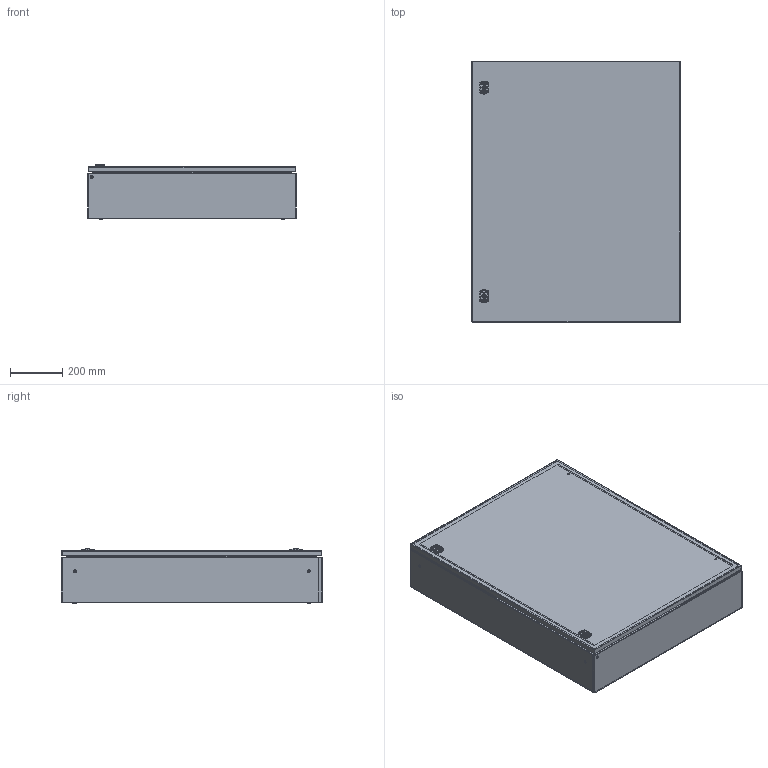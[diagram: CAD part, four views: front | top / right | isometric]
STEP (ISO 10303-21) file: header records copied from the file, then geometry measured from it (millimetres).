
FILE_DESCRIPTION(('Open CASCADE Model'),'2;1');
FILE_NAME('Open CASCADE Shape Model','2025-01-21T00:11:09',('Author'),( 'Open CASCADE'),'Open CASCADE STEP processor 7.8','Open CASCADE 7.8' ,'Unknown');
FILE_SCHEMA(('AUTOMOTIVE_DESIGN { 1 0 10303 214 1 1 1 1 }'));
Length unit declared in the file: millimetre
Products named in the file (29): Compound1; Compound2; Compound3; Compound4; Solid1; Solid2; Solid3; Solid4; Compound5; Solid5; Solid6; Solid7; Solid8; Compound6; Compound7; Solid9; Solid10; Solid11; Solid12; Compound8; Solid13; Solid14; Solid15; Solid16; Solid17; Solid18; Solid19; Solid20; Solid21
Assembly tree (55 placements, depth 5):
  Compound1
    Compound2
      Compound3
        Compound4
          Solid1
          Solid2
          Solid3  x4
          Solid4  x4
        Compound5  x3
          Solid5
        Solid6  x3
        Solid7  x3
        Solid8  x3
      Compound6
        Compound7
          Solid9
          Solid10  x2
          Solid11  x2
        Solid12
        Compound8  x2
          Solid13
          Solid14
          Solid15
          Solid16
          Solid17
      Solid18  x4
      Solid19
      Solid20  x4
    Solid21  x5
Bounding box: 800 x 1001 x 208.01 mm (x, y, z)
Volume: 4987431.6 mm3; surface area: 6724629.7 mm2
Topology: 52 solids, 52 shells, 5190 faces, 13213 edges, 8401 vertices
Faces by surface type: plane 2734, cylinder 1366, bspline 519, torus 317, cone 182, sphere 64, revolution 8
Full cylindrical faces by diameter (mm): 4 x68, 5.5 x6, 8 x5
Entity records: 172041 total; most frequent: CARTESIAN_POINT 89088, ORIENTED_EDGE 17588, DIRECTION 15987, EDGE_CURVE 8794, LINE 6195, VECTOR 6195, VERTEX_POINT 5679, AXIS2_PLACEMENT_3D 4894
